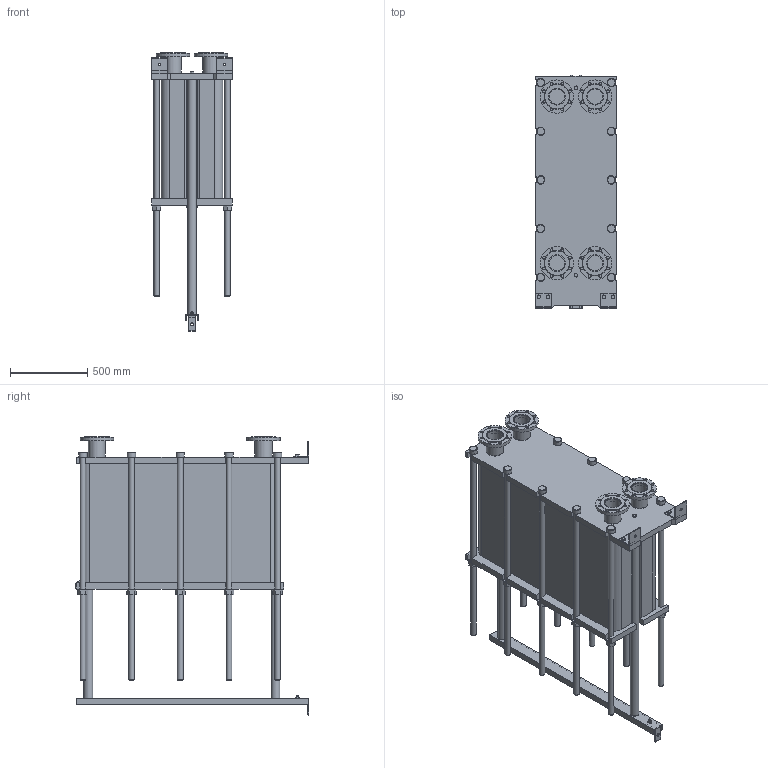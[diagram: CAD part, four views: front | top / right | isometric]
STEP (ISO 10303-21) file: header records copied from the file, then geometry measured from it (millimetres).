
FILE_DESCRIPTION(/* description */ (''),/* implementation_level */ '2;1');
FILE_NAME(/* name */ 'C:\Users\zhuro\Desktop\ENCO\TO\ЭН-04\ЭН-0,5-04-224-1.stp',/* time_stamp */ '2022-06-06T11:05:19+03:00',/* author */ ('zhuro'),/* organization */ (''),/* preprocessor_version */ 'ST-DEVELOPER v18.1',/* originating_system */ 'Autodesk Inventor 2022',/* authorisation */ '');
FILE_SCHEMA (('AUTOMOTIVE_DESIGN { 1 0 10303 214 3 1 1 }'));
Length unit declared in the file: millimetre
Products named in the file (1): ЭН-0,5-04-224-1
Bounding box: 520 x 1510 x 1797 mm (x, y, z)
Volume: 464092455.8 mm3; surface area: 11082033.7 mm2
Topology: 45 solids, 45 shells, 668 faces, 1611 edges, 1048 vertices
Faces by surface type: plane 457, cylinder 166, cone 39, torus 6
Full cylindrical faces by diameter (mm): 8 x4, 10 x2, 16 x8, 18 x35, 36 x25, 40 x2, 42 x1, 45 x4, 54 x10, 57 x2, 60 x10, 68 x2, 100 x4, 110 x8, 215 x4
Entity records: 23607 total; most frequent: CARTESIAN_POINT 7348, DIRECTION 3371, ORIENTED_EDGE 3142, EDGE_CURVE 1571, AXIS2_PLACEMENT_3D 1199, VERTEX_POINT 1044, LINE 973, VECTOR 973
